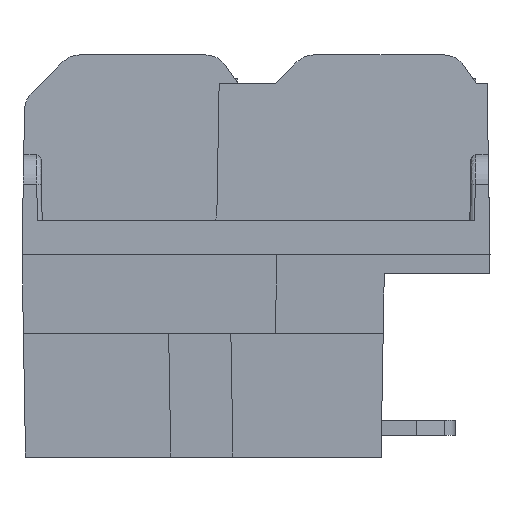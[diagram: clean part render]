
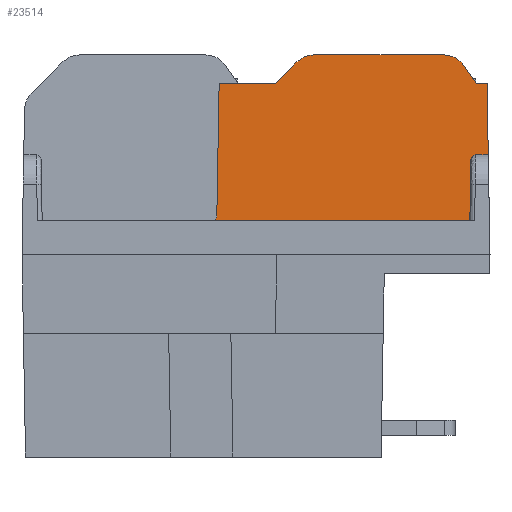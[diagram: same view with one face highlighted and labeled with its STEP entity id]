
A CAD part, left-side view. The second image highlights one B-rep face of the part: STEP entity #23514.
In plain terms, the highlighted planar face has unit normal (-1, 0, 0.018).
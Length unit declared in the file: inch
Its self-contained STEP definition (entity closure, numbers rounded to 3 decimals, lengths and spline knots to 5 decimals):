
#862=ELLIPSE('',#24960,0.01,0.01);
#869=ELLIPSE('',#24973,0.01,0.01);
#870=ELLIPSE('',#24974,0.05001,0.05);
#871=ELLIPSE('',#24975,0.05001,0.05);
#1294=FACE_OUTER_BOUND('',#2584,.T.);
#2584=EDGE_LOOP('',(#16808,#16809,#16810,#16811,#16812,#16813,#16814,#16815,
#16816,#16817,#16818,#16819,#16820,#16821));
#3724=LINE('',#32425,#6669);
#3821=LINE('',#32642,#6766);
#4345=LINE('',#33679,#7290);
#4566=LINE('',#34388,#7511);
#4577=LINE('',#34423,#7522);
#4578=LINE('',#34426,#7523);
#4579=LINE('',#34429,#7524);
#4580=LINE('',#34431,#7525);
#4581=LINE('',#34435,#7526);
#4582=LINE('',#34438,#7527);
#6669=VECTOR('',#26357,0.3937);
#6766=VECTOR('',#26484,0.3937);
#7290=VECTOR('',#27302,0.3937);
#7511=VECTOR('',#27669,0.3937);
#7522=VECTOR('',#27700,0.3937);
#7523=VECTOR('',#27703,0.3937);
#7524=VECTOR('',#27706,0.3937);
#7525=VECTOR('',#27707,0.3937);
#7526=VECTOR('',#27710,0.3937);
#7527=VECTOR('',#27713,0.3937);
#9608=VERTEX_POINT('',#32422);
#9609=VERTEX_POINT('',#32424);
#9701=VERTEX_POINT('',#32640);
#10066=VERTEX_POINT('',#33676);
#10067=VERTEX_POINT('',#33678);
#10239=VERTEX_POINT('',#34381);
#10240=VERTEX_POINT('',#34383);
#10241=VERTEX_POINT('',#34387);
#10256=VERTEX_POINT('',#34425);
#10257=VERTEX_POINT('',#34427);
#10258=VERTEX_POINT('',#34430);
#10259=VERTEX_POINT('',#34432);
#10260=VERTEX_POINT('',#34434);
#10261=VERTEX_POINT('',#34436);
#11880=EDGE_CURVE('',#9608,#9609,#3724,.T.);
#11982=EDGE_CURVE('',#9701,#9608,#3821,.T.);
#12508=EDGE_CURVE('',#10066,#10067,#4345,.T.);
#12765=EDGE_CURVE('',#10239,#10240,#862,.T.);
#12767=EDGE_CURVE('',#10241,#10239,#4566,.T.);
#12786=EDGE_CURVE('',#10066,#10240,#4577,.T.);
#12787=EDGE_CURVE('',#10256,#10241,#4578,.F.);
#12788=EDGE_CURVE('',#10257,#10256,#869,.F.);
#12789=EDGE_CURVE('',#9609,#10257,#4579,.F.);
#12790=EDGE_CURVE('',#10258,#9701,#4580,.T.);
#12791=EDGE_CURVE('',#10259,#10258,#870,.T.);
#12792=EDGE_CURVE('',#10260,#10259,#4581,.T.);
#12793=EDGE_CURVE('',#10261,#10260,#871,.T.);
#12794=EDGE_CURVE('',#10067,#10261,#4582,.T.);
#16808=ORIENTED_EDGE('',*,*,#12786,.T.);
#16809=ORIENTED_EDGE('',*,*,#12765,.F.);
#16810=ORIENTED_EDGE('',*,*,#12767,.F.);
#16811=ORIENTED_EDGE('',*,*,#12787,.F.);
#16812=ORIENTED_EDGE('',*,*,#12788,.F.);
#16813=ORIENTED_EDGE('',*,*,#12789,.F.);
#16814=ORIENTED_EDGE('',*,*,#11880,.F.);
#16815=ORIENTED_EDGE('',*,*,#11982,.F.);
#16816=ORIENTED_EDGE('',*,*,#12790,.F.);
#16817=ORIENTED_EDGE('',*,*,#12791,.F.);
#16818=ORIENTED_EDGE('',*,*,#12792,.F.);
#16819=ORIENTED_EDGE('',*,*,#12793,.F.);
#16820=ORIENTED_EDGE('',*,*,#12794,.F.);
#16821=ORIENTED_EDGE('',*,*,#12508,.F.);
#22486=PLANE('',#24972);
#23514=ADVANCED_FACE('',(#1294),#22486,.F.);
#24960=AXIS2_PLACEMENT_3D('',#34384,#27664,#27665);
#24972=AXIS2_PLACEMENT_3D('',#34424,#27701,#27702);
#24973=AXIS2_PLACEMENT_3D('',#34428,#27704,#27705);
#24974=AXIS2_PLACEMENT_3D('',#34433,#27708,#27709);
#24975=AXIS2_PLACEMENT_3D('',#34437,#27711,#27712);
#26357=DIRECTION('',(-0.017,-0.017,-1.));
#26484=DIRECTION('',(0.,-1.,0.));
#27302=DIRECTION('',(0.,-1.,0.));
#27664=DIRECTION('center_axis',(-1.,0.,0.017));
#27665=DIRECTION('ref_axis',(-0.017,0.,-1.));
#27669=DIRECTION('',(0.,1.,0.));
#27700=DIRECTION('',(-0.017,0.017,-1.));
#27701=DIRECTION('center_axis',(1.,0.,-0.017));
#27702=DIRECTION('ref_axis',(-0.017,0.,-1.));
#27703=DIRECTION('',(0.017,-0.017,1.));
#27704=DIRECTION('center_axis',(1.,0.,-0.017));
#27705=DIRECTION('ref_axis',(0.017,0.,1.));
#27706=DIRECTION('',(0.,-1.,0.));
#27707=DIRECTION('',(-0.014,-0.574,-0.819));
#27708=DIRECTION('center_axis',(1.,0.,-0.017));
#27709=DIRECTION('ref_axis',(0.017,0.,1.));
#27710=DIRECTION('',(0.,-1.,0.));
#27711=DIRECTION('center_axis',(1.,0.,-0.017));
#27712=DIRECTION('ref_axis',(0.017,0.,1.));
#27713=DIRECTION('',(0.012,-0.707,0.707));
#32422=CARTESIAN_POINT('',(0.46647,0.00698,0.4));
#32424=CARTESIAN_POINT('',(0.46386,0.00436,0.25));
#32425=CARTESIAN_POINT('',(0.46172,0.00223,0.12756));
#32640=CARTESIAN_POINT('',(0.46647,0.02896,0.4));
#32642=CARTESIAN_POINT('',(0.46647,0.26288,0.4));
#33676=CARTESIAN_POINT('',(0.46647,0.57,0.4));
#33678=CARTESIAN_POINT('',(0.46647,0.45171,0.4));
#33679=CARTESIAN_POINT('',(0.46647,0.51338,0.4));
#34381=CARTESIAN_POINT('',(0.46145,0.58485,0.112));
#34383=CARTESIAN_POINT('',(0.46162,0.57486,0.12183));
#34384=CARTESIAN_POINT('Origin',(0.46162,0.58485,0.122));
#34387=CARTESIAN_POINT('',(0.46145,0.04305,0.112));
#34388=CARTESIAN_POINT('',(0.46145,0.49465,0.112));
#34423=CARTESIAN_POINT('',(0.46171,0.57476,0.12727));
#34424=CARTESIAN_POINT('Origin',(0.46234,0.49681,0.16345));
#34425=CARTESIAN_POINT('',(0.46368,0.04081,0.24017));
#34426=CARTESIAN_POINT('',(0.46078,0.04371,0.07375));
#34427=CARTESIAN_POINT('',(0.46386,0.03081,0.25));
#34428=CARTESIAN_POINT('Origin',(0.46368,0.03081,0.24));
#34429=CARTESIAN_POINT('',(0.46386,0.25965,0.25));
#34430=CARTESIAN_POINT('',(0.46715,0.05604,0.43868));
#34431=CARTESIAN_POINT('',(0.46734,0.06384,0.44982));
#34432=CARTESIAN_POINT('',(0.46752,0.097,0.46));
#34433=CARTESIAN_POINT('Origin',(0.46665,0.097,0.41));
#34434=CARTESIAN_POINT('',(0.46752,0.371,0.46));
#34435=CARTESIAN_POINT('',(0.46752,0.4339,0.46));
#34436=CARTESIAN_POINT('',(0.46727,0.40636,0.44536));
#34437=CARTESIAN_POINT('Origin',(0.46665,0.371,0.41));
#34438=CARTESIAN_POINT('',(0.46524,0.52215,0.32956));
